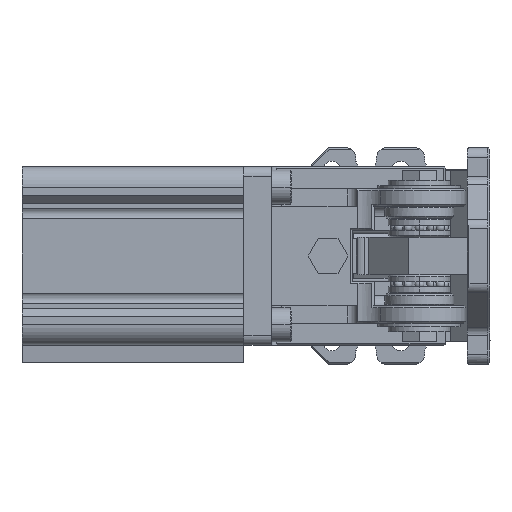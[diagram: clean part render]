
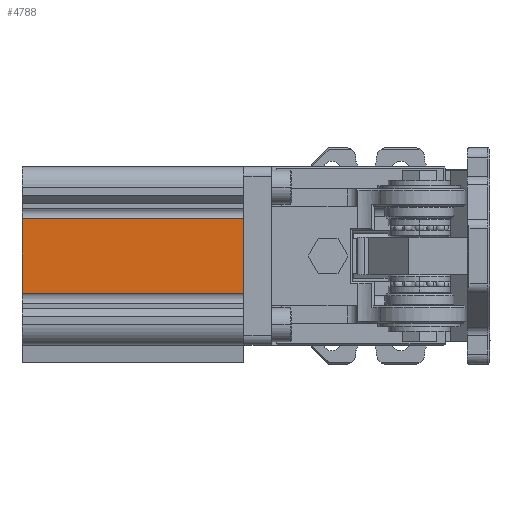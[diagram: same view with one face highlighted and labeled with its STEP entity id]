
A CAD part, left-side view. The second image highlights one B-rep face of the part: STEP entity #4788.
In plain terms, the highlighted planar face has unit normal (-1, 0, 0).
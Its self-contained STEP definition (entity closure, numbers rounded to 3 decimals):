
#1666=LINE('',#41902,#3241);
#1723=LINE('',#42058,#3298);
#1724=LINE('',#42061,#3299);
#1725=LINE('',#42062,#3300);
#3241=VECTOR('',#22956,1.);
#3298=VECTOR('',#23073,1.);
#3299=VECTOR('',#23074,1.);
#3300=VECTOR('',#23075,1.);
#4788=ADVANCED_FACE('',(#6463),#5885,.T.);
#5885=PLANE('',#20221);
#6463=FACE_OUTER_BOUND('',#7632,.T.);
#7632=EDGE_LOOP('',(#9732,#9733,#9734,#9735));
#9732=ORIENTED_EDGE('',*,*,#16614,.T.);
#9733=ORIENTED_EDGE('',*,*,#16615,.T.);
#9734=ORIENTED_EDGE('',*,*,#16536,.F.);
#9735=ORIENTED_EDGE('',*,*,#16616,.F.);
#14623=VERTEX_POINT('',#41901);
#14624=VERTEX_POINT('',#41903);
#14693=VERTEX_POINT('',#42059);
#14694=VERTEX_POINT('',#42060);
#16536=EDGE_CURVE('',#14623,#14624,#1666,.T.);
#16614=EDGE_CURVE('',#14693,#14694,#1723,.T.);
#16615=EDGE_CURVE('',#14694,#14624,#1724,.T.);
#16616=EDGE_CURVE('',#14693,#14623,#1725,.T.);
#20221=AXIS2_PLACEMENT_3D('',#42063,#23076,#23077);
#22956=DIRECTION('',(0.,0.,1.));
#23073=DIRECTION('',(0.,0.,1.));
#23074=DIRECTION('',(0.,1.,0.));
#23075=DIRECTION('',(0.,1.,0.));
#23076=DIRECTION('',(-1.,0.,0.));
#23077=DIRECTION('',(0.,0.,-1.));
#41901=CARTESIAN_POINT('',(202.2,64.5,-36.8));
#41902=CARTESIAN_POINT('',(202.2,64.5,-36.8));
#41903=CARTESIAN_POINT('',(202.2,64.5,-15.2));
#42058=CARTESIAN_POINT('',(202.2,0.,-36.8));
#42059=CARTESIAN_POINT('',(202.2,0.,-36.8));
#42060=CARTESIAN_POINT('',(202.2,0.,-15.2));
#42061=CARTESIAN_POINT('',(202.2,0.,-15.2));
#42062=CARTESIAN_POINT('',(202.2,0.,-36.8));
#42063=CARTESIAN_POINT('',(202.2,64.5,-41.31));
